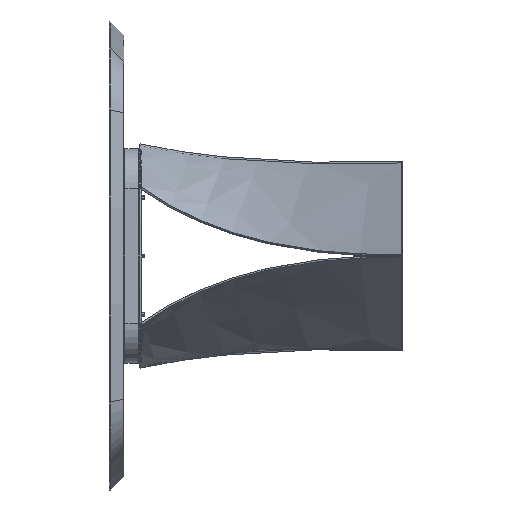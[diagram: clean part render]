
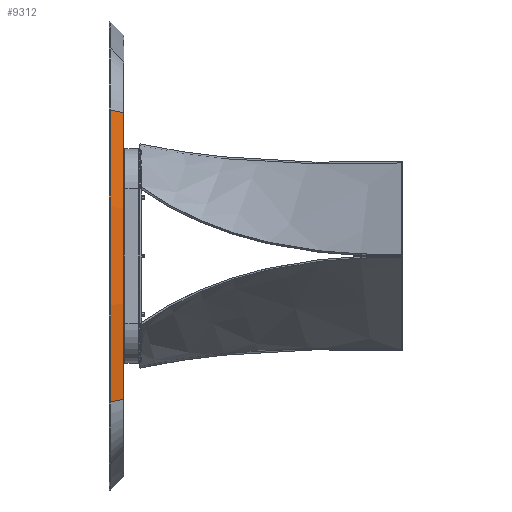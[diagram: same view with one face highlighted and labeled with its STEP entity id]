
A CAD part, left-side view. The second image highlights one B-rep face of the part: STEP entity #9312.
In plain terms, the highlighted conical face has half-angle 45 degrees and reference radius 1900 mm.
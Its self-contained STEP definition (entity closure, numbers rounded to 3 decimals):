
#903 = CARTESIAN_POINT ( 'NONE',  ( -1428.519, 0., 367.072 ) ) ;
#1198 = CARTESIAN_POINT ( 'NONE',  ( -1428.519, 0., -367.072 ) ) ;
#1541 = EDGE_CURVE ( 'NONE', #14180, #17163, #18980, .T. ) ;
#2231 = AXIS2_PLACEMENT_3D ( 'NONE', #17596, #15882, #23774 ) ;
#2379 = CARTESIAN_POINT ( 'NONE',  ( -1462.835, 35., -373.961 ) ) ;
#2622 = EDGE_CURVE ( 'NONE', #22743, #17163, #9873, .T. ) ;
#4277 = CARTESIAN_POINT ( 'NONE',  ( -1428.807, 0.293, 367.13 ) ) ;
#4716 = ORIENTED_EDGE ( 'NONE', *, *, #1541, .T. ) ;
#5260 = DIRECTION ( 'NONE',  ( -0.693, 0.707, 0.139 ) ) ;
#5525 = AXIS2_PLACEMENT_3D ( 'NONE', #7697, #5588, #22208 ) ;
#5588 = DIRECTION ( 'NONE',  ( 0., 1., 0. ) ) ;
#6281 = CARTESIAN_POINT ( 'NONE',  ( -1428.807, 0.293, -367.13 ) ) ;
#6369 = CONICAL_SURFACE ( 'NONE', #5525, 1900., 0.785 ) ;
#7270 = DIRECTION ( 'NONE',  ( -0.693, 0.707, -0.139 ) ) ;
#7697 = CARTESIAN_POINT ( 'NONE',  ( 400., 35., 0. ) ) ;
#8270 = CARTESIAN_POINT ( 'NONE',  ( -1462.835, 35., 373.961 ) ) ;
#8274 = CARTESIAN_POINT ( 'NONE',  ( 400., 35., 0. ) ) ;
#9312 = ADVANCED_FACE ( 'NONE', ( #14174 ), #6369, .T. ) ;
#9760 = ORIENTED_EDGE ( 'NONE', *, *, #2622, .F. ) ;
#9873 = CIRCLE ( 'NONE', #23320, 1900. ) ;
#11421 = ORIENTED_EDGE ( 'NONE', *, *, #18123, .T. ) ;
#12874 = EDGE_CURVE ( 'NONE', #21851, #22743, #18897, .T. ) ;
#13437 = VECTOR ( 'NONE', #5260, 1000. ) ;
#14174 = FACE_OUTER_BOUND ( 'NONE', #23573, .T. ) ;
#14180 = VERTEX_POINT ( 'NONE', #4277 ) ;
#14568 = VECTOR ( 'NONE', #7270, 1000. ) ;
#15882 = DIRECTION ( 'NONE',  ( 0., 1., 0. ) ) ;
#17163 = VERTEX_POINT ( 'NONE', #8270 ) ;
#17596 = CARTESIAN_POINT ( 'NONE',  ( 400., 0.293, 0. ) ) ;
#18123 = EDGE_CURVE ( 'NONE', #21851, #14180, #20795, .T. ) ;
#18897 = LINE ( 'NONE', #1198, #14568 ) ;
#18980 = LINE ( 'NONE', #903, #13437 ) ;
#19329 = ORIENTED_EDGE ( 'NONE', *, *, #12874, .F. ) ;
#20795 = CIRCLE ( 'NONE', #2231, 1865.293 ) ;
#21851 = VERTEX_POINT ( 'NONE', #6281 ) ;
#22208 = DIRECTION ( 'NONE',  ( 0., 0., 1. ) ) ;
#22249 = DIRECTION ( 'NONE',  ( 0., 0., 1. ) ) ;
#22743 = VERTEX_POINT ( 'NONE', #2379 ) ;
#23320 = AXIS2_PLACEMENT_3D ( 'NONE', #8274, #24369, #22249 ) ;
#23573 = EDGE_LOOP ( 'NONE', ( #19329, #11421, #4716, #9760 ) ) ;
#23774 = DIRECTION ( 'NONE',  ( 0., 0., 1. ) ) ;
#24369 = DIRECTION ( 'NONE',  ( 0., 1., 0. ) ) ;
